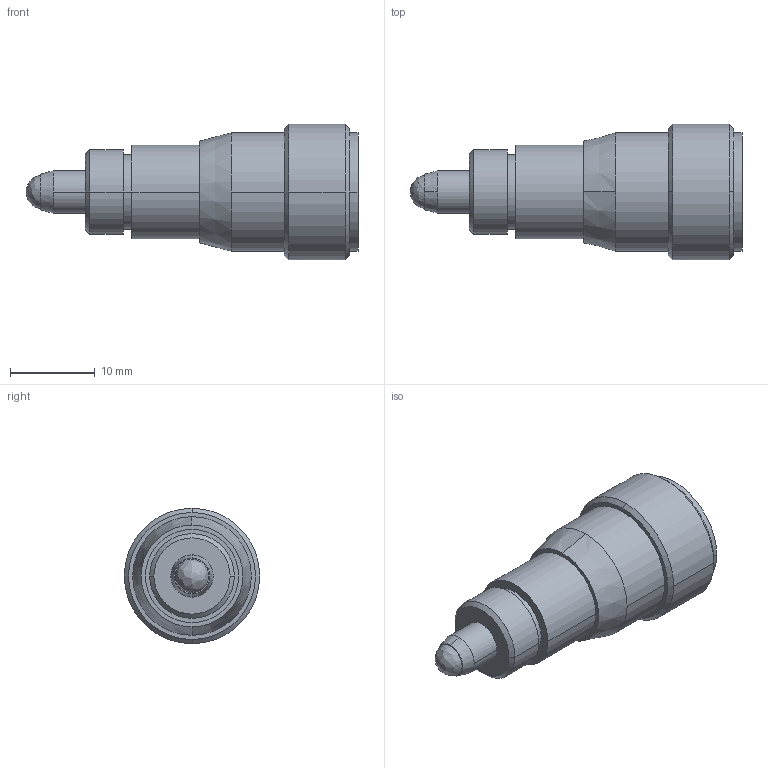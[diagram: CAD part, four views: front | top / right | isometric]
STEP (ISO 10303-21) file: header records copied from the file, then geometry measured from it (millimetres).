
FILE_DESCRIPTION (( 'STEP AP203' ), '1' );
FILE_NAME ('9S75M-5.STEP', '2008-10-23T21:34:25', ( 'Darius' ), ( '' ), 'SwSTEP 2.0', 'SolidWorks 2003240', '' );
FILE_SCHEMA (( 'CONFIG_CONTROL_DESIGN' ));
Length unit declared in the file: millimetre
Products named in the file (1): 9S75M-5
Bounding box: 39.21 x 16 x 16 mm (x, y, z)
Volume: 4313.9 mm3; surface area: 2068.3 mm2
Topology: 1 solids, 2 shells, 164 faces, 433 edges, 287 vertices
Faces by surface type: bspline 73, plane 54, cylinder 22, cone 15
Entity records: 6830 total; most frequent: CARTESIAN_POINT 3122, ORIENTED_EDGE 862, DIRECTION 545, EDGE_CURVE 431, VERTEX_POINT 287, VECTOR 213, LINE 213, EDGE_LOOP 182
